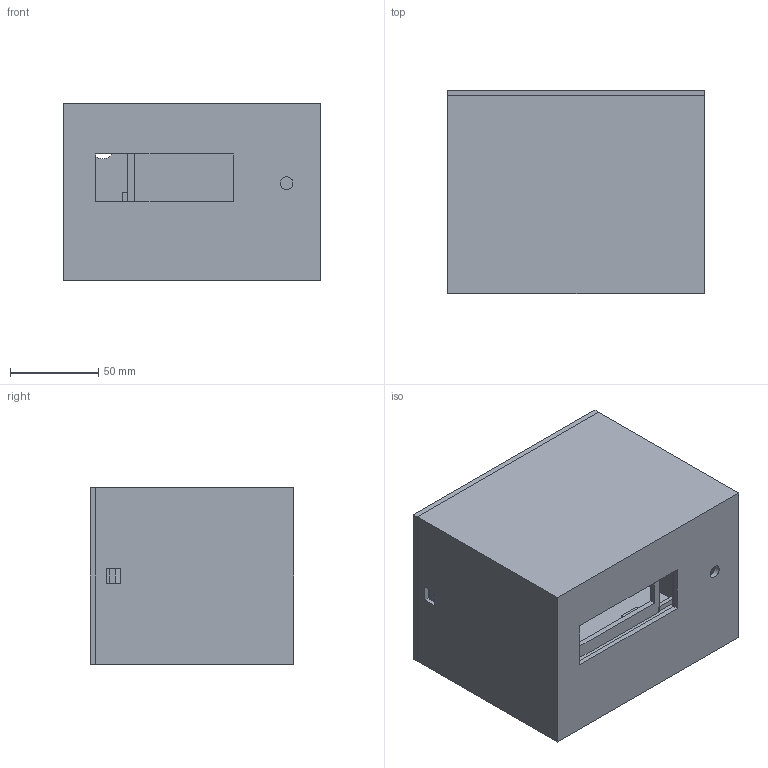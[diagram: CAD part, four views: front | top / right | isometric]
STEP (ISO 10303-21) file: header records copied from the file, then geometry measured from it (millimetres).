
FILE_DESCRIPTION(('Open CASCADE Model'),'2;1');
FILE_NAME('Open CASCADE Shape Model','2026-11-04T18:29:49',('Author'),( 'Open CASCADE'),'Open CASCADE STEP processor 7.8','Open CASCADE 7.8' ,'Unknown');
FILE_SCHEMA(('AUTOMOTIVE_DESIGN { 1 0 10303 214 1 1 1 1 }'));
Length unit declared in the file: millimetre
Products named in the file (4): Boitier_3_pieces_a_imprimer; 01_Coque_supports_et_clips_integres; 02_Berceau_B_et_clips_integres; 03_Panneau_arriere_et_clips_integres
Assembly tree (3 placements, depth 2):
  Boitier_3_pieces_a_imprimer
    01_Coque_supports_et_clips_integres
    02_Berceau_B_et_clips_integres
    03_Panneau_arriere_et_clips_integres
Bounding box: 145 x 115 x 100 mm (x, y, z)
Volume: 267609.7 mm3; surface area: 194926.1 mm2
Topology: 3 solids, 3 shells, 269 faces, 729 edges, 484 vertices
Faces by surface type: plane 264, cylinder 5
Full cylindrical faces by diameter (mm): 7.2 x1, 12.4 x1, 12.5 x2, 16 x1
Entity records: 17493 total; most frequent: CARTESIAN_POINT 3368, DIRECTION 2319, LINE 1743, VECTOR 1743, ORIENTED_EDGE 1458, PCURVE 1458, DEFINITIONAL_REPRESENTATION 1458, EDGE_CURVE 729
